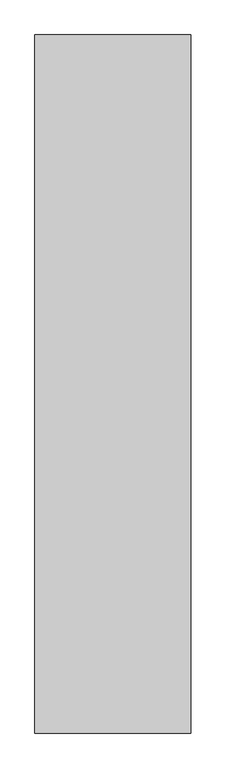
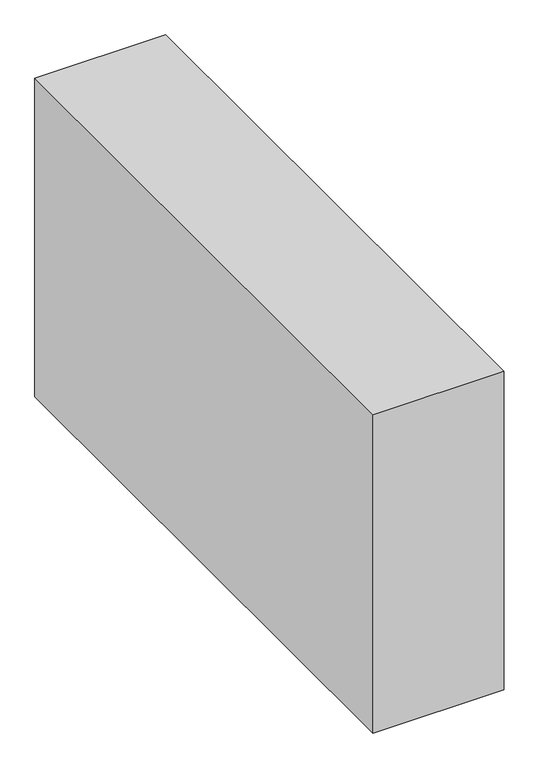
"""IFC4 building model written with IfcOpenShell, lengths in millimetres: proxy geometry."""

import ifcopenshell
import ifcopenshell.guid

model = None  # the IFC model being written
_history = None  # IfcOwnerHistory: only IFC2X3 demands one
_inside = {}  # id of a spatial element -> (the spatial element, [elements in it])
_under = {}  # id of a project, library or spatial element -> (it, [spatial elements below it])
_declared = {}  # id of a project -> (the project, [libraries it declares])
_typed = {}  # id of a type object -> (the type object, [elements of that type])
_made_of = {}  # id of a material, layer set ... -> (it, [elements and type objects made of it])


def new_model(schema):
    """Start an empty IFC model of exactly this schema.

    Asked for "IFC4X3", IfcOpenShell would pick the latest addendum, in which some entities
    have other attributes; the version numbers below select the first issue.
    IFC2X3 requires an IfcOwnerHistory on every rooted entity: one is made here for all.
    """
    global model, _history
    if schema == "IFC4X3":
        model = ifcopenshell.file(schema_version=(4, 3, 0, 0))
    else:
        model = ifcopenshell.file(schema=schema)
    _inside.clear()
    _under.clear()
    _declared.clear()
    _typed.clear()
    _made_of.clear()
    _history = None
    if model.schema == "IFC2X3":
        org = make("IfcOrganization", Name="unknown")
        user = make(
            "IfcPersonAndOrganization",
            ThePerson=make("IfcPerson", FamilyName="unknown"),
            TheOrganization=org,
        )
        app = make(
            "IfcApplication",
            ApplicationDeveloper=org,
            Version="unknown",
            ApplicationFullName="unknown",
            ApplicationIdentifier="unknown",
        )
        _history = make(
            "IfcOwnerHistory",
            OwningUser=user,
            OwningApplication=app,
            ChangeAction="ADDED",
            CreationDate=0,
        )
    return model


def make(cls, **values):
    """One entity of the class cls with the attributes given. An attribute that is None is left unset."""
    return model.create_entity(
        cls, **{name: value for name, value in values.items() if value is not None}
    )


def rooted(cls, **values):
    """An entity with a GlobalId (a new one), such as an element, a storey or a relation."""
    return make(cls, GlobalId=ifcopenshell.guid.new(), OwnerHistory=_history, **values)


def si_unit(unit_type, name, prefix=None):
    """IfcSIUnit, for example si_unit("LENGTHUNIT", "METRE", prefix="MILLI")."""
    return make("IfcSIUnit", UnitType=unit_type, Prefix=prefix, Name=name)


def assignment(units):
    """IfcUnitAssignment: the units of a project."""
    return None if units is None else make("IfcUnitAssignment", Units=units)


def point(xyz):
    """IfcCartesianPoint."""
    return None if xyz is None else make("IfcCartesianPoint", Coordinates=xyz)


def direction(xyz):
    """IfcDirection."""
    return None if xyz is None else make("IfcDirection", DirectionRatios=xyz)


def frame(location, z_axis=None, x_axis=None):
    """IfcAxis2Placement3D, a coordinate frame: its origin and axes. An axis left out is left unset."""
    return make(
        "IfcAxis2Placement3D",
        Location=point(location),
        Axis=direction(z_axis),
        RefDirection=direction(x_axis),
    )


def origin():
    """The frame at (0, 0, 0) with its axes left unset."""
    return frame((0.0, 0.0, 0.0))


def place(relative_to, where):
    """IfcLocalPlacement: puts the frame where relative to a parent placement (None: the world)."""
    return make(
        "IfcLocalPlacement", PlacementRelTo=relative_to, RelativePlacement=where
    )


def context(
    kind, dimensions, precision=None, world=None, true_north=None, identifier=None
):
    """IfcGeometricRepresentationContext, for example the 3D "Model" context."""
    return make(
        "IfcGeometricRepresentationContext",
        ContextIdentifier=identifier,
        ContextType=kind,
        CoordinateSpaceDimension=dimensions,
        Precision=precision,
        WorldCoordinateSystem=world,
        TrueNorth=true_north,
    )


def project(units=None, contexts=None):
    """IfcProject with its units and contexts."""
    return rooted(
        "IfcProject",
        Name="project",
        RepresentationContexts=contexts,
        UnitsInContext=assignment(units),
    )


def spatial(cls, under=None, at=None, **own):
    """A site, building, storey or space (cls), placed at a placement, below another one or the project."""
    s = rooted(cls, ObjectPlacement=at, **own)
    if under is not None:
        _under.setdefault(under.id(), (under, []))[1].append(s)
    return s


def polyline(points):
    """IfcPolyline through the points."""
    return make("IfcPolyline", Points=[point(p) for p in points])


def outline(outer, holes=None, kind="AREA"):
    """IfcArbitraryClosedProfileDef: a profile drawn as a closed curve; with holes, ...WithVoids."""
    if holes is None:
        return make("IfcArbitraryClosedProfileDef", ProfileType=kind, OuterCurve=outer)
    return make(
        "IfcArbitraryProfileDefWithVoids",
        ProfileType=kind,
        OuterCurve=outer,
        InnerCurves=holes,
    )


def extrude(swept, where, along, depth):
    """IfcExtrudedAreaSolid: the profile swept, set in the frame where, extruded along a direction by depth."""
    return make(
        "IfcExtrudedAreaSolid",
        SweptArea=swept,
        Position=where,
        ExtrudedDirection=direction(along),
        Depth=depth,
    )


def shape(context_of_items, identifier, shape_type, items):
    """IfcShapeRepresentation: the items that make up one representation, for example the "Body"."""
    return make(
        "IfcShapeRepresentation",
        ContextOfItems=context_of_items,
        RepresentationIdentifier=identifier,
        RepresentationType=shape_type,
        Items=items,
    )


def source(mapping_origin, context_of_items, identifier, shape_type, items):
    """IfcRepresentationMap: a shape defined once, which mapped items show again and again."""
    return make(
        "IfcRepresentationMap",
        MappingOrigin=mapping_origin,
        MappedRepresentation=shape(context_of_items, identifier, shape_type, items),
    )


def transform(
    local_origin,
    x_axis=None,
    y_axis=None,
    z_axis=None,
    scale=None,
    scale2=None,
    scale3=None,
    uniform=True,
):
    """IfcCartesianTransformationOperator3D, or its non-uniform kind. x_axis, y_axis, z_axis: its Axis1, 2, 3."""
    if uniform:
        return make(
            "IfcCartesianTransformationOperator3D",
            Axis1=direction(x_axis),
            Axis2=direction(y_axis),
            LocalOrigin=point(local_origin),
            Scale=scale,
            Axis3=direction(z_axis),
        )
    return make(
        "IfcCartesianTransformationOperator3DnonUniform",
        Axis1=direction(x_axis),
        Axis2=direction(y_axis),
        LocalOrigin=point(local_origin),
        Scale=scale,
        Axis3=direction(z_axis),
        Scale2=scale2,
        Scale3=scale3,
    )


def mapped(mapping_source, mapping_target):
    """IfcMappedItem: shows the shape of a source again, moved by a transform."""
    return make(
        "IfcMappedItem", MappingSource=mapping_source, MappingTarget=mapping_target
    )


def made_of(thing, what):
    """Note that an element or type object is made of a material, layer set ...; save() writes the relation."""
    if what is not None:
        _made_of.setdefault(what.id(), (what, []))[1].append(thing)
    return thing


def element(
    cls,
    number,
    at=None,
    inside=None,
    cuts=None,
    type_object=None,
    material=None,
    context=None,
    identifier="Body",
    shape_type=None,
    held_by="IfcProductDefinitionShape",
    body=None,
    shapes=None,
    **own,
):
    """One element of the class cls, such as IfcWall. Its Tag is "e" and its number.

    at: its placement. inside: the storey or other place that contains it. cuts: it is an
    opening in that element (IfcRelVoidsElement). A single representation is given by context,
    identifier, shape_type and body (its items); several are given by shapes. held_by: the class
    of the entity that holds the representations. save() writes the other relations.
    """
    e = rooted(cls, Tag="e%d" % number, ObjectPlacement=at, **own)
    if body is not None:
        shapes = [shape(context, identifier, shape_type, body)]
    if shapes is not None:
        e.Representation = make(held_by, Representations=shapes)
    if inside is not None:
        _inside.setdefault(inside.id(), (inside, []))[1].append(e)
    if cuts is not None:
        rooted(
            "IfcRelVoidsElement", RelatingBuildingElement=cuts, RelatedOpeningElement=e
        )
    if type_object is not None:
        _typed.setdefault(type_object.id(), (type_object, []))[1].append(e)
    return made_of(e, material)


def aggregate(whole, parts):
    """IfcRelAggregates: a whole, such as a stair, and the parts it consists of."""
    return rooted("IfcRelAggregates", RelatingObject=whole, RelatedObjects=parts)


def save(model, path):
    """Write the relations noted so far, then the file.

    IfcRelAggregates (storeys below a building ...), IfcRelContainedInSpatialStructure (elements
    in a storey), IfcRelDefinesByType, IfcRelAssociatesMaterial and IfcRelDeclares: one each for
    every whole, place, type object, material and project.
    """
    for whole, parts in _under.values():
        aggregate(whole, parts)
    for where, things in _inside.values():
        rooted(
            "IfcRelContainedInSpatialStructure",
            RelatedElements=things,
            RelatingStructure=where,
        )
    for kind, things in _typed.values():
        rooted("IfcRelDefinesByType", RelatedObjects=things, RelatingType=kind)
    for what, things in _made_of.values():
        rooted("IfcRelAssociatesMaterial", RelatedObjects=things, RelatingMaterial=what)
    for by, libraries in _declared.values():
        rooted("IfcRelDeclares", RelatingContext=by, RelatedDefinitions=libraries)
    model.write(path)


def generic_models_a5eae3d7(model_context):
    return source(origin(), model_context, "Body", "SweptSolid", [
        extrude(outline(polyline([(-2300.7903374, -1447.5), (-2980.7903374, -1447.5), (-2980.7903374, 1600.5), (-2300.7903374, 1600.5), (-2300.7903374, -1447.5)])), frame((0.0, 0.0, 750.0), z_axis=(0.0, 0.0, 1.0), x_axis=(1.0, 0.0, 0.0)), (0.0, 0.0, 1.0), 1750.0),
    ])


if __name__ == "__main__":
    model = new_model("IFC4")
    model_context = context("Model", 3, world=origin())
    ifc_project = project(units=[si_unit("LENGTHUNIT", "METRE", prefix="MILLI")], contexts=[model_context])
    site = spatial("IfcSite", under=ifc_project)
    building = spatial("IfcBuilding", under=site)
    placement = place(None, origin())
    generic_models_shape = generic_models_a5eae3d7(model_context)
    element("IfcBuildingElementProxy", 1, Name="Generic Models", at=placement, inside=building, context=model_context, shape_type="MappedRepresentation", body=[
        mapped(generic_models_shape, transform((0.0, 0.0, 0.0), x_axis=(1.0, 0.0, 0.0), y_axis=(0.0, 1.0, 0.0), z_axis=(0.0, 0.0, 1.0))),
    ])
    save(model, "model.ifc")
